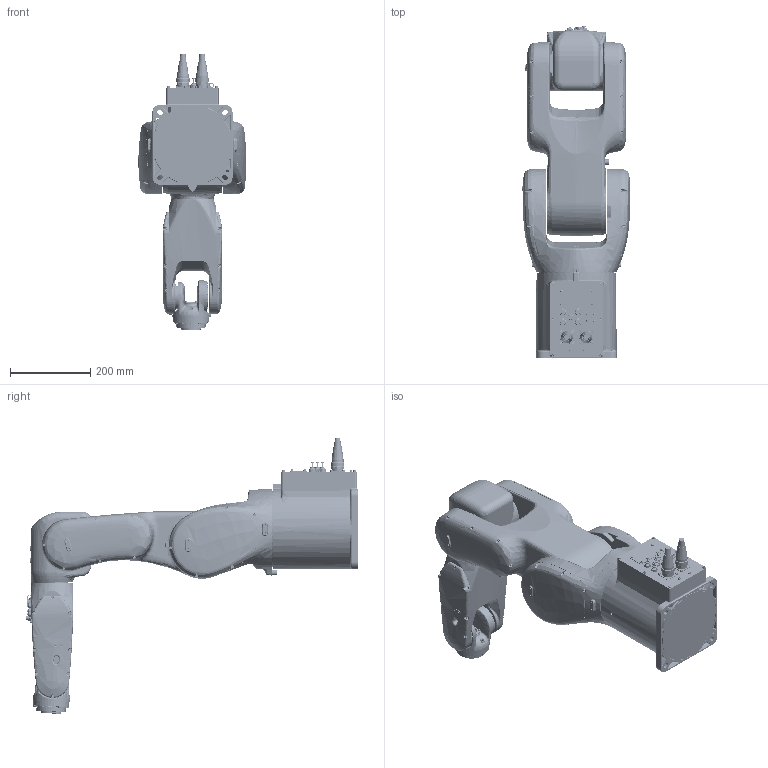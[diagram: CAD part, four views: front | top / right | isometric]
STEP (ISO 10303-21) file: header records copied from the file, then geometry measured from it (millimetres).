
FILE_DESCRIPTION (( 'STEP AP214' ), '1' );
FILE_NAME ('RH07-08 小型六轴机器人_简化模型.STEP', '2025-12-25T08:04:55', ( 'Windows User' ), ( 'P R C' ), 'SwSTEP 2.0', 'SolidWorks 2021', '' );
FILE_SCHEMA (( 'AUTOMOTIVE_DESIGN' ));
Length unit declared in the file: millimetre
Products named in the file (26): RH07-08_01.STEP; ________________ M4X10_________________ M4X10.STEP; ________WS28K26Z.STEP; ____(______) PP6.STEP; __________________ M4X5___________________ M4X5.STEP; CR070101 ________ 2021.1.23.STEP; __________ 16____1.STEP; ______10____________ SC-CMV1-R10P-F(10P__).STEP; CR070109 ____________ 2021.4.1.STEP; ________________ M3X8_________________ M3X8.STEP; ______________ M2.5X8_______________ M2.5X8.STEP; RA07A-08_03; RH07-08_01; ________B WS28J26TQ.STEP; RH070102 __________.STEP; ________B WS28J35TQ.STEP; RH07-08 小型六轴机器人_简化模型; RH07-08_06; PM6 ____________.STEP; ________________ M4X12_________________ M4X12.STEP; ________WS28K35Z.STEP; RH07010200B ____________ 2025.02.27.STEP; RH07-08_05; RA07A-08_02; ________________ M4X8_________________ M4X8.STEP; RH07-08_04
Assembly tree (67 placements, depth 5):
  RH07-08 小型六轴机器人_简化模型
    RH07-08_01
      RH07-08_01.STEP
        RH07010200B ____________ 2025.02.27.STEP
          RH070102 __________.STEP
          CR070109 ____________ 2021.4.1.STEP
          PM6 ____________.STEP  x5
          ____(______) PP6.STEP  x5
          ________________ M4X12_________________ M4X12.STEP
          ______________ M2.5X8_______________ M2.5X8.STEP  x4
          ______10____________ SC-CMV1-R10P-F(10P__).STEP
          ________________ M4X8_________________ M4X8.STEP  x6
          ________WS28K26Z.STEP
          ________WS28K35Z.STEP
          ________________ M3X8_________________ M3X8.STEP  x8
          ________B WS28J26TQ.STEP
          ________B WS28J35TQ.STEP
        CR070101 ________ 2021.1.23.STEP
        ________________ M3X8_________________ M3X8.STEP  x12
        __________________ M4X5___________________ M4X5.STEP  x2
        ________________ M4X10_________________ M4X10.STEP  x6
        __________ 16____1.STEP  x2
    RA07A-08_02
    RA07A-08_03
    RH07-08_04
    RH07-08_05
    RH07-08_06
Bounding box: 271.57 x 828.86 x 688.8 mm (x, y, z)
Volume: 28547947.7 mm3; surface area: 1567520.2 mm2
Topology: 174 solids, 181 shells, 8698 faces, 20418 edges, 12204 vertices
Faces by surface type: plane 2930, cylinder 2490, cone 1328, bspline 1270, torus 569, sphere 111
Entity records: 380368 total; most frequent: CARTESIAN_POINT 187167, ORIENTED_EDGE 33842, DIRECTION 33466, EDGE_CURVE 16921, AXIS2_PLACEMENT_3D 13613, VERTEX_POINT 10337, EDGE_LOOP 8218, CIRCLE 7420
